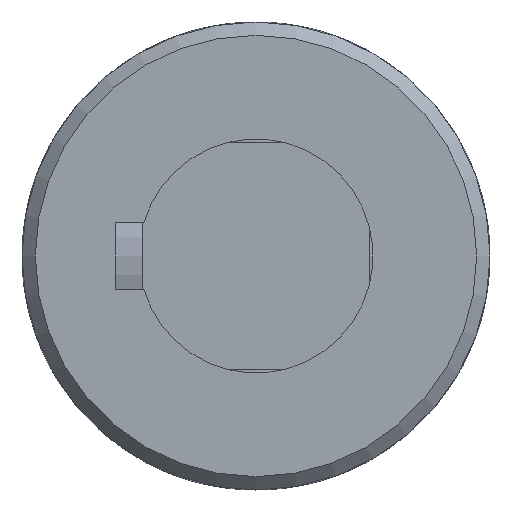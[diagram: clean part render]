
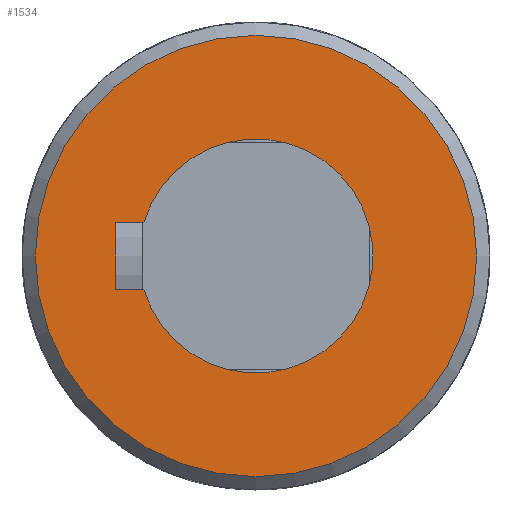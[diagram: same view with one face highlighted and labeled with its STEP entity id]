
A CAD part, front view. The second image highlights one B-rep face of the part: STEP entity #1534.
In plain terms, the highlighted planar face has unit normal (0, -1, 0).
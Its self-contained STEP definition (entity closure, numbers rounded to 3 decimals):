
#81=LINE('',#3013,#138);
#86=LINE('',#3030,#143);
#87=LINE('',#3039,#144);
#138=VECTOR('',#1998,4.229);
#143=VECTOR('',#2009,4.229);
#144=VECTOR('',#2012,10.);
#291=FACE_BOUND('',#522,.T.);
#395=FACE_OUTER_BOUND('',#521,.T.);
#521=EDGE_LOOP('',(#1304));
#522=EDGE_LOOP('',(#1305,#1306,#1307,#1308));
#599=CIRCLE('',#1673,17.5);
#604=CIRCLE('',#1683,33.);
#727=VERTEX_POINT('',#3002);
#728=VERTEX_POINT('',#3004);
#730=VERTEX_POINT('',#3012);
#736=VERTEX_POINT('',#3028);
#738=VERTEX_POINT('',#3045);
#918=EDGE_CURVE('',#728,#727,#599,.T.);
#921=EDGE_CURVE('',#730,#728,#81,.T.);
#929=EDGE_CURVE('',#727,#736,#86,.T.);
#931=EDGE_CURVE('',#736,#730,#87,.T.);
#934=EDGE_CURVE('',#738,#738,#604,.T.);
#1304=ORIENTED_EDGE('',*,*,#934,.F.);
#1305=ORIENTED_EDGE('',*,*,#929,.T.);
#1306=ORIENTED_EDGE('',*,*,#931,.T.);
#1307=ORIENTED_EDGE('',*,*,#921,.T.);
#1308=ORIENTED_EDGE('',*,*,#918,.T.);
#1452=PLANE('',#1685);
#1534=ADVANCED_FACE('',(#395,#291),#1452,.F.);
#1673=AXIS2_PLACEMENT_3D('',#3005,#1993,#1994);
#1683=AXIS2_PLACEMENT_3D('',#3046,#2021,#2022);
#1685=AXIS2_PLACEMENT_3D('',#3278,#2029,#2030);
#1993=DIRECTION('center_axis',(0.,1.,0.));
#1994=DIRECTION('ref_axis',(0.286,0.,-0.958));
#1998=DIRECTION('',(0.,0.,1.));
#2009=DIRECTION('',(0.,0.,-1.));
#2012=DIRECTION('',(-1.,0.,0.));
#2021=DIRECTION('center_axis',(0.,1.,0.));
#2022=DIRECTION('ref_axis',(1.,0.,0.));
#2029=DIRECTION('center_axis',(0.,1.,0.));
#2030=DIRECTION('ref_axis',(0.,0.,1.));
#3002=CARTESIAN_POINT('',(5.,-87.,-16.771));
#3004=CARTESIAN_POINT('',(-5.,-87.,-16.771));
#3005=CARTESIAN_POINT('Origin',(0.,-87.,0.));
#3012=CARTESIAN_POINT('',(-5.,-87.,-21.));
#3013=CARTESIAN_POINT('',(-5.,-87.,-10.5));
#3028=CARTESIAN_POINT('',(5.,-87.,-21.));
#3030=CARTESIAN_POINT('',(5.,-87.,-8.385));
#3039=CARTESIAN_POINT('',(2.5,-87.,-21.));
#3045=CARTESIAN_POINT('',(-33.,-87.,0.));
#3046=CARTESIAN_POINT('Origin',(0.,-87.,0.));
#3278=CARTESIAN_POINT('Origin',(0.,-87.,0.));
